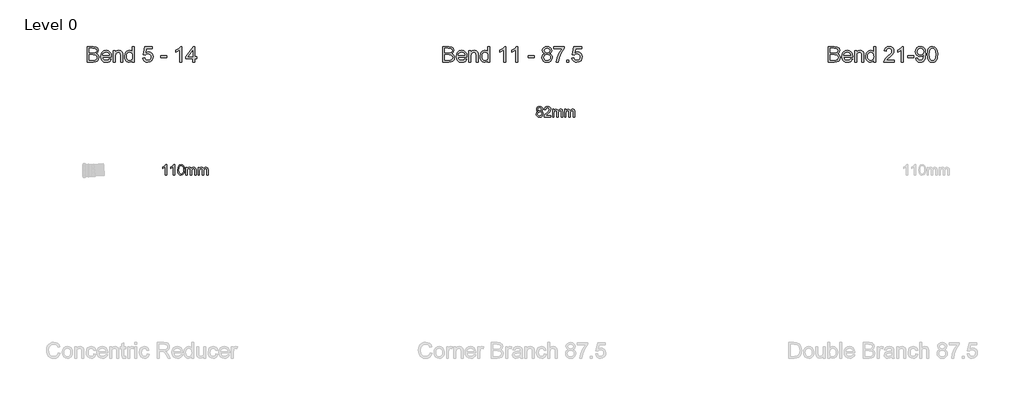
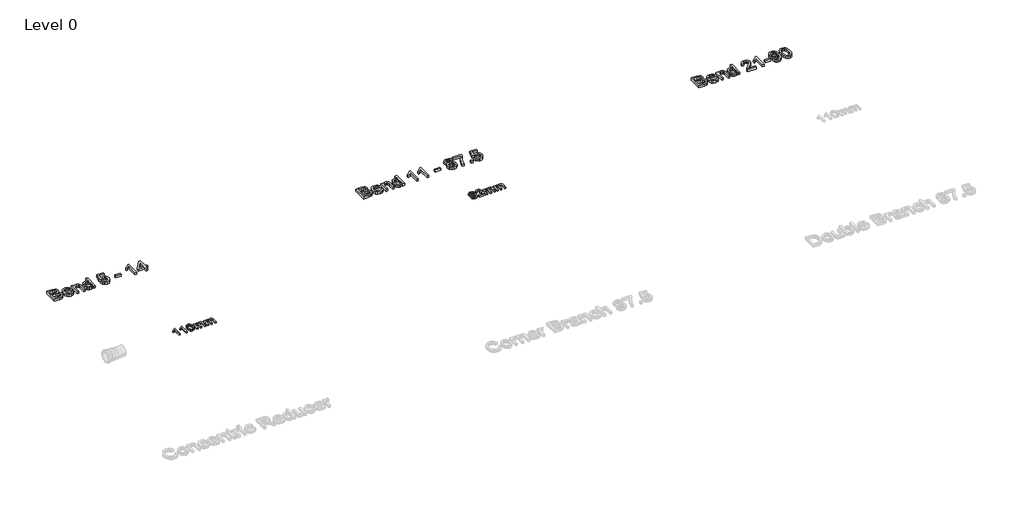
# One storey, part 20 of 23: 5 proxies.
"""IFC4 building model written with IfcOpenShell, lengths in millimetres."""

from ifc_helpers import new_model, si_unit, origin, origin_with_axes, place, context, project, spatial, polyline, outline, extrude, element, save

model = new_model("IFC4")

# Units and contexts
model_context = context("Model", 3, world=origin())
ifc_project = project(units=[si_unit("LENGTHUNIT", "METRE", prefix="MILLI")], contexts=[model_context])

# Site, building, storey
site = spatial("IfcSite", under=ifc_project)
building = spatial("IfcBuilding", under=site)
storey = spatial("IfcBuildingStorey", under=building, Name="Level 0", Elevation=0.0)

# Proxies
placement = place(None, origin())
element("IfcBuildingElementProxy", 1, Name="100mm Arial", ObjectType="100mm Arial", at=placement, inside=storey, context=model_context, shape_type="SweptSolid", body=[
    extrude(outline(polyline([(-6791.7293188, 8237.7167304), (-6804.0370111, 8237.7167304), (-6804.0370111, 8314.4474996), (-6815.6956649, 8306.1422111), (-6828.6523957, 8299.9282688), (-6828.6523957, 8311.5628842), (-6810.6115303, 8323.0773073), (-6799.6620111, 8336.1782688), (-6791.7293188, 8336.1782688), (-6791.7293188, 8237.7167304)])), origin_with_axes(), (0.0, 0.0, 1.0), 15.0),
    extrude(outline(polyline([(-6716.3447034, 8237.7167304), (-6728.6523957, 8237.7167304), (-6728.6523957, 8314.4474996), (-6740.3110495, 8306.1422111), (-6753.2677803, 8299.9282688), (-6753.2677803, 8311.5628842), (-6735.2269149, 8323.0773073), (-6724.2773957, 8336.1782688), (-6716.3447034, 8336.1782688), (-6716.3447034, 8237.7167304)])), origin_with_axes(), (0.0, 0.0, 1.0), 15.0),
    extrude(outline(polyline([(-6687.1139341, 8286.1542304), (-6683.4961457, 8314.4835573), (-6672.7509534, 8330.8176919), (-6654.8062418, 8336.1782688), (-6640.4312418, 8333.0051919), (-6630.5033572, 8323.8585573), (-6624.7341264, 8309.2912496), (-6622.4985495, 8286.1542304), (-6626.0802803, 8257.9450958), (-6636.7894149, 8241.5749035), (-6654.8062418, 8236.1782688), (-6667.5947034, 8238.5220188), (-6677.3062418, 8245.5532688), (-6684.6620111, 8262.2059131), (-6687.1139341, 8286.1542304)]), holes=[polyline([(-6674.8062418, 8286.1782688), (-6673.3639341, 8266.8182929), (-6669.0370111, 8255.613365), (-6662.5947034, 8250.2678121), (-6654.8062418, 8248.4859611), (-6647.0177803, 8250.2738217), (-6640.5754726, 8255.6374035), (-6636.2485495, 8266.848341), (-6634.8062418, 8286.1782688), (-6636.2004726, 8305.1025477), (-6640.3831649, 8316.394615), (-6646.8134534, 8322.0015861), (-6654.9504726, 8323.8705765), (-6662.6547995, 8322.2239419), (-6668.8447034, 8317.2840381), (-6673.3158572, 8305.2888458), (-6674.8062418, 8286.1782688)])]), origin_with_axes(), (0.0, 0.0, 1.0), 15.0),
    extrude(outline(polyline([(-6608.6523957, 8237.7167304), (-6608.6523957, 8310.0244227), (-6596.3447034, 8310.0244227), (-6596.3447034, 8298.1253842), (-6587.8831649, 8307.8729804), (-6575.8398957, 8311.5628842), (-6563.5081649, 8307.800865), (-6556.7293188, 8297.2599996), (-6547.1259534, 8307.9871631), (-6534.9985495, 8311.5628842), (-6525.7467466, 8310.0755044), (-6518.9047995, 8305.613365), (-6514.6770351, 8298.0562736), (-6513.2677803, 8287.2840381), (-6513.2677803, 8237.7167304), (-6525.5754726, 8237.7167304), (-6525.5754726, 8281.9955765), (-6526.7172995, 8292.2720188), (-6530.8519149, 8297.332115), (-6537.8831649, 8299.2551919), (-6549.9865303, 8294.3273073), (-6554.8062418, 8278.5340381), (-6554.8062418, 8237.7167304), (-6567.1139341, 8237.7167304), (-6567.1139341, 8283.3657688), (-6569.9624918, 8295.2888458), (-6579.3014341, 8299.2551919), (-6588.4120111, 8296.6109611), (-6594.4697034, 8288.8705765), (-6596.3447034, 8274.1830765), (-6596.3447034, 8237.7167304), (-6608.6523957, 8237.7167304)])), origin_with_axes(), (0.0, 0.0, 1.0), 15.0),
    extrude(outline(polyline([(-6494.8062418, 8237.7167304), (-6494.8062418, 8310.0244227), (-6482.4985495, 8310.0244227), (-6482.4985495, 8298.1253842), (-6474.0370111, 8307.8729804), (-6461.9937418, 8311.5628842), (-6449.6620111, 8307.800865), (-6442.8831649, 8297.2599996), (-6433.2797995, 8307.9871631), (-6421.1523957, 8311.5628842), (-6411.9005928, 8310.0755044), (-6405.0586457, 8305.613365), (-6400.8308813, 8298.0562736), (-6399.4216264, 8287.2840381), (-6399.4216264, 8237.7167304), (-6411.7293188, 8237.7167304), (-6411.7293188, 8281.9955765), (-6412.8711457, 8292.2720188), (-6417.0057611, 8297.332115), (-6424.0370111, 8299.2551919), (-6436.1403764, 8294.3273073), (-6440.960088, 8278.5340381), (-6440.960088, 8237.7167304), (-6453.2677803, 8237.7167304), (-6453.2677803, 8283.3657688), (-6456.116338, 8295.2888458), (-6465.4552803, 8299.2551919), (-6474.5658572, 8296.6109611), (-6480.6235495, 8288.8705765), (-6482.4985495, 8274.1830765), (-6482.4985495, 8237.7167304), (-6494.8062418, 8237.7167304)])), origin_with_axes(), (0.0, 0.0, 1.0), 15.0),
])
element("IfcBuildingElementProxy", 2, Name="100mm Arial", ObjectType="100mm Arial", at=placement, inside=storey, context=model_context, shape_type="SweptSolid", body=[
    extrude(outline(polyline([(-3282.2581649, 8840.881174), (-3293.4721072, 8848.5254048), (-3297.1139341, 8860.4244433), (-3295.1307611, 8870.0458375), (-3289.1812418, 8877.9965587), (-3279.9324438, 8883.3330971), (-3268.0514341, 8885.1119433), (-3256.0983091, 8883.2910298), (-3246.7293188, 8877.8282894), (-3240.6716264, 8869.7513663), (-3238.6523957, 8860.0879048), (-3242.2461457, 8848.4893471), (-3253.147588, 8840.881174), (-3240.0586457, 8831.2297317), (-3235.5754726, 8815.304251), (-3237.7990303, 8803.537424), (-3244.4697034, 8793.8138663), (-3254.7701841, 8787.287424), (-3267.8831649, 8785.1119433), (-3280.9961457, 8787.2964385), (-3291.2966264, 8793.849924), (-3297.9672995, 8803.6666308), (-3300.1908572, 8815.6407894), (-3295.5273957, 8831.9388663), (-3282.2581649, 8840.881174)]), holes=[polyline([(-3284.8062418, 8860.0638663), (-3280.4432611, 8850.4004048), (-3267.7389341, 8846.6504048), (-3255.2870111, 8850.3763663), (-3250.960088, 8859.5109817), (-3255.4312418, 8868.9701163), (-3267.8831649, 8872.804251), (-3280.3711457, 8869.054251), (-3284.8062418, 8860.0638663)]), polyline([(-3287.8831649, 8816.0734817), (-3285.8278764, 8806.8066548), (-3278.5562418, 8799.8715587), (-3267.7870111, 8797.4196356), (-3253.1235495, 8802.5758856), (-3247.8831649, 8815.6888663), (-3253.2918188, 8829.054251), (-3259.7221072, 8833.0205971), (-3268.1956649, 8834.3427125), (-3282.678838, 8829.1263663), (-3287.8831649, 8816.0734817)])]), origin_with_axes(), (0.0, 0.0, 1.0), 15.0),
    extrude(outline(polyline([(-3161.7293188, 8798.9580971), (-3161.7293188, 8786.6504048), (-3226.3447034, 8786.6504048), (-3225.022588, 8795.1359817), (-3217.5466264, 8808.2008856), (-3202.1379726, 8822.4677125), (-3180.8879726, 8842.9725202), (-3175.5754726, 8856.9148279), (-3180.5874918, 8868.2008856), (-3193.6764341, 8872.804251), (-3207.3182611, 8868.3090587), (-3212.4985495, 8855.881174), (-3224.8062418, 8857.4196356), (-3221.8224678, 8869.3246837), (-3215.3711457, 8878.0205971), (-3205.7888139, 8883.3391067), (-3193.4120111, 8885.1119433), (-3180.9450639, 8883.1407894), (-3171.3807611, 8877.2273279), (-3165.2960255, 8868.3931933), (-3163.2677803, 8857.6600202), (-3165.4552803, 8845.9893471), (-3172.7269149, 8833.9220394), (-3190.3591264, 8817.0590587), (-3204.5177803, 8805.2201163), (-3210.0706649, 8798.9580971), (-3161.7293188, 8798.9580971)])), origin_with_axes(), (0.0, 0.0, 1.0), 15.0),
    extrude(outline(polyline([(-3146.3447034, 8786.6504048), (-3146.3447034, 8858.9580971), (-3134.0370111, 8858.9580971), (-3134.0370111, 8847.0590587), (-3125.5754726, 8856.8066548), (-3113.5322034, 8860.4965587), (-3101.2004726, 8856.7345394), (-3094.4216264, 8846.193674), (-3084.8182611, 8856.9208375), (-3072.6908572, 8860.4965587), (-3063.4390543, 8859.0091788), (-3056.5971072, 8854.5470394), (-3052.3693428, 8846.9899481), (-3050.960088, 8836.2177125), (-3050.960088, 8786.6504048), (-3063.2677803, 8786.6504048), (-3063.2677803, 8830.929251), (-3064.4096072, 8841.2056933), (-3068.5442226, 8846.2657894), (-3075.5754726, 8848.1888663), (-3087.678838, 8843.2609817), (-3092.4985495, 8827.4677125), (-3092.4985495, 8786.6504048), (-3104.8062418, 8786.6504048), (-3104.8062418, 8832.2994433), (-3107.6547995, 8844.2225202), (-3116.9937418, 8848.1888663), (-3126.1043188, 8845.5446356), (-3132.1620111, 8837.804251), (-3134.0370111, 8823.116751), (-3134.0370111, 8786.6504048), (-3146.3447034, 8786.6504048)])), origin_with_axes(), (0.0, 0.0, 1.0), 15.0),
    extrude(outline(polyline([(-3032.4985495, 8786.6504048), (-3032.4985495, 8858.9580971), (-3020.1908572, 8858.9580971), (-3020.1908572, 8847.0590587), (-3011.7293188, 8856.8066548), (-2999.6860495, 8860.4965587), (-2987.3543188, 8856.7345394), (-2980.5754726, 8846.193674), (-2970.9721072, 8856.9208375), (-2958.8447034, 8860.4965587), (-2949.5929005, 8859.0091788), (-2942.7509534, 8854.5470394), (-2938.5231889, 8846.9899481), (-2937.1139341, 8836.2177125), (-2937.1139341, 8786.6504048), (-2949.4216264, 8786.6504048), (-2949.4216264, 8830.929251), (-2950.5634534, 8841.2056933), (-2954.6980688, 8846.2657894), (-2961.7293188, 8848.1888663), (-2973.8326841, 8843.2609817), (-2978.6523957, 8827.4677125), (-2978.6523957, 8786.6504048), (-2990.960088, 8786.6504048), (-2990.960088, 8832.2994433), (-2993.8086457, 8844.2225202), (-3003.147588, 8848.1888663), (-3012.2581649, 8845.5446356), (-3018.3158572, 8837.804251), (-3020.1908572, 8823.116751), (-3020.1908572, 8786.6504048), (-3032.4985495, 8786.6504048)])), origin_with_axes(), (0.0, 0.0, 1.0), 15.0),
])
element("IfcBuildingElementProxy", 3, Name="150mm Arial", ObjectType="150mm Arial", at=placement, inside=storey, context=model_context, shape_type="SweptSolid", body=[
    extrude(outline(polyline([(-7541.3741435, 9305.2145219), (-7541.3741435, 9452.9068296), (-7485.0159704, 9452.9068296), (-7457.413807, 9448.5618777), (-7448.1379656, 9443.049558), (-7441.11573, 9435.2025027), (-7435.2202973, 9416.3082719), (-7440.17823, 9399.0546661), (-7455.1602012, 9385.9837527), (-7444.6989632, 9380.5210123), (-7436.9690954, 9372.2097142), (-7432.1959584, 9361.5997383), (-7430.6049127, 9349.2409642), (-7434.9498647, 9329.3912046), (-7445.7130858, 9315.2565892), (-7461.7767877, 9307.7565892), (-7485.4486627, 9305.2145219), (-7541.3741435, 9305.2145219)]), holes=[polyline([(-7522.912605, 9323.6760604), (-7485.0520281, 9323.6760604), (-7471.350105, 9324.3972142), (-7459.757557, 9328.4176469), (-7452.0772685, 9336.6207719), (-7449.0664512, 9349.0606758), (-7452.600105, 9363.4116373), (-7464.0484223, 9371.9753392), (-7486.8549127, 9374.4452911), (-7522.912605, 9374.4452911), (-7522.912605, 9323.6760604)]), polyline([(-7522.912605, 9392.9068296), (-7489.1986627, 9392.9068296), (-7469.5111627, 9394.4933681), (-7457.6662108, 9401.3263008), (-7453.6818358, 9413.3515411), (-7457.3957781, 9425.3948104), (-7468.0327973, 9432.5162046), (-7491.7587589, 9434.4452911), (-7522.912605, 9434.4452911), (-7522.912605, 9392.9068296)])]), origin_with_axes(), (0.0, 0.0, 1.0), 25.0),
    extrude(outline(polyline([(-7331.5904897, 9337.5222142), (-7313.4895281, 9335.2145219), (-7320.0114632, 9321.5756998), (-7330.4186147, 9311.3803873), (-7344.4766074, 9305.025219), (-7361.9510666, 9302.9068296), (-7383.6127252, 9306.5621782), (-7400.2803935, 9317.5282238), (-7410.9083983, 9335.0928272), (-7414.4510666, 9358.5438488), (-7410.8723406, 9382.7836325), (-7400.1361627, 9400.9116373), (-7383.693855, 9412.2157238), (-7362.9967397, 9415.9837527), (-7342.9441555, 9412.2247383), (-7326.9210185, 9400.947695), (-7316.4147084, 9382.8557479), (-7312.912605, 9358.6520219), (-7313.0207781, 9353.6760604), (-7395.9895281, 9353.6760604), (-7392.7939151, 9339.8569498), (-7385.3705377, 9329.697695), (-7374.6568959, 9323.4506998), (-7361.5904897, 9321.3683681), (-7343.4895281, 9325.2265411), (-7331.5904897, 9337.5222142)]), holes=[polyline([(-7395.9895281, 9372.1375988), (-7331.3741435, 9372.1375988), (-7333.8711387, 9381.8912046), (-7338.7659704, 9388.8683681), (-7349.5291916, 9395.3587527), (-7363.068855, 9397.5222142), (-7375.5132661, 9395.7959522), (-7385.80323, 9390.6171661), (-7392.9561747, 9382.5447503), (-7395.9895281, 9372.1375988)])]), origin_with_axes(), (0.0, 0.0, 1.0), 25.0),
    extrude(outline(polyline([(-7294.4510666, 9305.2145219), (-7294.4510666, 9413.6760604), (-7275.9895281, 9413.6760604), (-7275.9895281, 9398.5318296), (-7261.8729416, 9411.6207719), (-7242.600105, 9415.9837527), (-7225.1662108, 9412.4681277), (-7213.2671723, 9403.2373585), (-7207.7323166, 9389.6616373), (-7206.7587589, 9371.8130796), (-7206.7587589, 9305.2145219), (-7225.2202973, 9305.2145219), (-7225.2202973, 9369.3250988), (-7227.3477012, 9385.6592335), (-7234.86573, 9394.2950508), (-7247.5400089, 9397.5222142), (-7258.3528094, 9395.7103152), (-7267.570057, 9390.2746181), (-7273.8846603, 9379.7728152), (-7275.9895281, 9362.7625988), (-7275.9895281, 9305.2145219), (-7294.4510666, 9305.2145219)])), origin_with_axes(), (0.0, 0.0, 1.0), 25.0),
    extrude(outline(polyline([(-7114.4510666, 9305.2145219), (-7114.4510666, 9322.6303873), (-7126.6656098, 9307.837719), (-7143.5496243, 9302.9068296), (-7155.4847204, 9304.6916854), (-7166.4102012, 9310.0462527), (-7175.6589993, 9318.596433), (-7182.5640473, 9329.9681277), (-7186.8639272, 9343.7016012), (-7188.2972204, 9359.3371181), (-7183.0147685, 9388.7241373), (-7176.4162108, 9400.3797863), (-7167.1854416, 9408.9525027), (-7156.0210786, 9414.2259402), (-7143.6217397, 9415.9837527), (-7126.6025089, 9410.9537046), (-7114.4510666, 9397.8827911), (-7114.4510666, 9452.9068296), (-7095.9895281, 9452.9068296), (-7095.9895281, 9305.2145219), (-7114.4510666, 9305.2145219)]), holes=[polyline([(-7169.835682, 9359.4092335), (-7167.7533502, 9342.7100147), (-7161.506355, 9330.8335123), (-7152.428831, 9323.7346541), (-7141.8549127, 9321.3683681), (-7131.2855017, 9323.6264811), (-7122.4378454, 9330.40082), (-7116.4477613, 9341.8175868), (-7114.4510666, 9358.0029835), (-7116.483819, 9375.698296), (-7122.5820762, 9387.9669258), (-7131.655093, 9395.1333921), (-7142.6121243, 9397.5222142), (-7153.2942156, 9395.2280436), (-7162.0472204, 9388.3455315), (-7167.8885666, 9376.5231157), (-7169.835682, 9359.4092335)])]), origin_with_axes(), (0.0, 0.0, 1.0), 25.0),
    extrude(outline(polyline([(-7015.2202973, 9344.4452911), (-6996.7587589, 9346.7529835), (-6993.3693358, 9335.6697503), (-6987.4558743, 9327.7325508), (-6979.0454175, 9322.9594137), (-6968.1650089, 9321.3683681), (-6954.9318358, 9323.5814089), (-6945.0159704, 9330.2205315), (-6938.8230618, 9340.5195099), (-6936.7587589, 9353.7121181), (-6938.6923526, 9366.1339931), (-6944.4931339, 9375.635195), (-6954.2061747, 9381.665844), (-6967.8765473, 9383.6760604), (-6984.08448, 9380.4669258), (-6994.4510666, 9372.1375988), (-7012.912605, 9374.4452911), (-6996.7587589, 9450.5991373), (-6925.2202973, 9450.5991373), (-6925.2202973, 9432.1375988), (-6981.8308743, 9432.1375988), (-6989.7275089, 9391.4645219), (-6976.5394079, 9399.4693296), (-6962.7202973, 9402.1375988), (-6945.4711988, 9398.8293056), (-6931.1517877, 9388.9044258), (-6921.5108622, 9373.7782238), (-6918.2972204, 9354.8659642), (-6921.1908502, 9336.4044258), (-6929.8717397, 9320.6111565), (-6946.4943358, 9307.3329113), (-6968.2371243, 9302.9068296), (-6986.3696363, 9305.7508801), (-7000.8152493, 9314.2830315), (-7010.717593, 9327.5116974), (-7015.2202973, 9344.4452911)])), origin_with_axes(), (0.0, 0.0, 1.0), 25.0),
    extrude(outline(polyline([(-6849.0664512, 9349.0606758), (-6849.0664512, 9367.5222142), (-6791.3741435, 9367.5222142), (-6791.3741435, 9349.0606758), (-6849.0664512, 9349.0606758)])), origin_with_axes(), (0.0, 0.0, 1.0), 25.0),
    extrude(outline(polyline([(-6648.2972204, 9305.2145219), (-6666.7587589, 9305.2145219), (-6666.7587589, 9420.3106758), (-6684.2467397, 9407.8527431), (-6703.6818358, 9398.5318296), (-6703.6818358, 9415.9837527), (-6676.6205377, 9433.2553873), (-6660.1962589, 9452.9068296), (-6648.2972204, 9452.9068296), (-6648.2972204, 9305.2145219)])), origin_with_axes(), (0.0, 0.0, 1.0), 25.0),
    extrude(outline(polyline([(-6544.4510666, 9305.2145219), (-6544.4510666, 9339.8299065), (-6611.3741435, 9339.8299065), (-6611.3741435, 9358.291445), (-6539.835682, 9450.5991373), (-6525.9895281, 9450.5991373), (-6525.9895281, 9358.291445), (-6507.5279897, 9358.291445), (-6507.5279897, 9339.8299065), (-6525.9895281, 9339.8299065), (-6525.9895281, 9305.2145219), (-6544.4510666, 9305.2145219)]), holes=[polyline([(-6544.4510666, 9358.291445), (-6544.4510666, 9415.3347142), (-6588.6577973, 9358.291445), (-6544.4510666, 9358.291445)])]), origin_with_axes(), (0.0, 0.0, 1.0), 25.0),
])
element("IfcBuildingElementProxy", 4, Name="150mm Arial", ObjectType="150mm Arial", at=placement, inside=storey, context=model_context, shape_type="SweptSolid", body=[
    extrude(outline(polyline([(-4183.2972204, 9305.2145219), (-4183.2972204, 9452.9068296), (-4126.9390473, 9452.9068296), (-4099.3368839, 9448.5618777), (-4090.0610425, 9443.049558), (-4083.038807, 9435.2025027), (-4077.1433743, 9416.3082719), (-4082.101307, 9399.0546661), (-4097.0832781, 9385.9837527), (-4086.6220401, 9380.5210123), (-4078.8921723, 9372.2097142), (-4074.1190353, 9361.5997383), (-4072.5279897, 9349.2409642), (-4076.8729416, 9329.3912046), (-4087.6361627, 9315.2565892), (-4103.6998647, 9307.7565892), (-4127.3717397, 9305.2145219), (-4183.2972204, 9305.2145219)]), holes=[polyline([(-4164.835682, 9323.6760604), (-4126.975105, 9323.6760604), (-4113.273182, 9324.3972142), (-4101.6806339, 9328.4176469), (-4094.0003454, 9336.6207719), (-4090.9895281, 9349.0606758), (-4094.523182, 9363.4116373), (-4105.9714993, 9371.9753392), (-4128.7779897, 9374.4452911), (-4164.835682, 9374.4452911), (-4164.835682, 9323.6760604)]), polyline([(-4164.835682, 9392.9068296), (-4131.1217397, 9392.9068296), (-4111.4342397, 9394.4933681), (-4099.5892877, 9401.3263008), (-4095.6049127, 9413.3515411), (-4099.318855, 9425.3948104), (-4109.9558743, 9432.5162046), (-4133.6818358, 9434.4452911), (-4164.835682, 9434.4452911), (-4164.835682, 9392.9068296)])]), origin_with_axes(), (0.0, 0.0, 1.0), 25.0),
    extrude(outline(polyline([(-3973.5135666, 9337.5222142), (-3955.412605, 9335.2145219), (-3961.9345401, 9321.5756998), (-3972.3416916, 9311.3803873), (-3986.3996844, 9305.025219), (-4003.8741435, 9302.9068296), (-4025.5358022, 9306.5621782), (-4042.2034704, 9317.5282238), (-4052.8314752, 9335.0928272), (-4056.3741435, 9358.5438488), (-4052.7954175, 9382.7836325), (-4042.0592397, 9400.9116373), (-4025.616932, 9412.2157238), (-4004.9198166, 9415.9837527), (-3984.8672324, 9412.2247383), (-3968.8440954, 9400.947695), (-3958.3377853, 9382.8557479), (-3954.835682, 9358.6520219), (-3954.943855, 9353.6760604), (-4037.912605, 9353.6760604), (-4034.7169921, 9339.8569498), (-4027.2936147, 9329.697695), (-4016.5799728, 9323.4506998), (-4003.5135666, 9321.3683681), (-3985.412605, 9325.2265411), (-3973.5135666, 9337.5222142)]), holes=[polyline([(-4037.912605, 9372.1375988), (-3973.2972204, 9372.1375988), (-3975.7942156, 9381.8912046), (-3980.6890473, 9388.8683681), (-3991.4522685, 9395.3587527), (-4004.991932, 9397.5222142), (-4017.436343, 9395.7959522), (-4027.726307, 9390.6171661), (-4034.8792517, 9382.5447503), (-4037.912605, 9372.1375988)])]), origin_with_axes(), (0.0, 0.0, 1.0), 25.0),
    extrude(outline(polyline([(-3936.3741435, 9305.2145219), (-3936.3741435, 9413.6760604), (-3917.912605, 9413.6760604), (-3917.912605, 9398.5318296), (-3903.7960185, 9411.6207719), (-3884.523182, 9415.9837527), (-3867.0892877, 9412.4681277), (-3855.1902493, 9403.2373585), (-3849.6553935, 9389.6616373), (-3848.6818358, 9371.8130796), (-3848.6818358, 9305.2145219), (-3867.1433743, 9305.2145219), (-3867.1433743, 9369.3250988), (-3869.2707781, 9385.6592335), (-3876.788807, 9394.2950508), (-3889.4630858, 9397.5222142), (-3900.2758863, 9395.7103152), (-3909.4931339, 9390.2746181), (-3915.8077372, 9379.7728152), (-3917.912605, 9362.7625988), (-3917.912605, 9305.2145219), (-3936.3741435, 9305.2145219)])), origin_with_axes(), (0.0, 0.0, 1.0), 25.0),
    extrude(outline(polyline([(-3756.3741435, 9305.2145219), (-3756.3741435, 9322.6303873), (-3768.5886868, 9307.837719), (-3785.4727012, 9302.9068296), (-3797.4077973, 9304.6916854), (-3808.3332781, 9310.0462527), (-3817.5820762, 9318.596433), (-3824.4871243, 9329.9681277), (-3828.7870041, 9343.7016012), (-3830.2202973, 9359.3371181), (-3824.9378454, 9388.7241373), (-3818.3392877, 9400.3797863), (-3809.1085185, 9408.9525027), (-3797.9441555, 9414.2259402), (-3785.5448166, 9415.9837527), (-3768.5255858, 9410.9537046), (-3756.3741435, 9397.8827911), (-3756.3741435, 9452.9068296), (-3737.912605, 9452.9068296), (-3737.912605, 9305.2145219), (-3756.3741435, 9305.2145219)]), holes=[polyline([(-3811.7587589, 9359.4092335), (-3809.6764272, 9342.7100147), (-3803.429432, 9330.8335123), (-3794.3519079, 9323.7346541), (-3783.7779897, 9321.3683681), (-3773.2085786, 9323.6264811), (-3764.3609223, 9330.40082), (-3758.3708382, 9341.8175868), (-3756.3741435, 9358.0029835), (-3758.4068959, 9375.698296), (-3764.5051531, 9387.9669258), (-3773.5781699, 9395.1333921), (-3784.5352012, 9397.5222142), (-3795.2172925, 9395.2280436), (-3803.9702973, 9388.3455315), (-3809.8116435, 9376.5231157), (-3811.7587589, 9359.4092335)])]), origin_with_axes(), (0.0, 0.0, 1.0), 25.0),
    extrude(outline(polyline([(-3587.912605, 9305.2145219), (-3606.3741435, 9305.2145219), (-3606.3741435, 9420.3106758), (-3623.8621243, 9407.8527431), (-3643.2972204, 9398.5318296), (-3643.2972204, 9415.9837527), (-3616.2359223, 9433.2553873), (-3599.8116435, 9452.9068296), (-3587.912605, 9452.9068296), (-3587.912605, 9305.2145219)])), origin_with_axes(), (0.0, 0.0, 1.0), 25.0),
    extrude(outline(polyline([(-3474.835682, 9305.2145219), (-3493.2972204, 9305.2145219), (-3493.2972204, 9420.3106758), (-3510.7852012, 9407.8527431), (-3530.2202973, 9398.5318296), (-3530.2202973, 9415.9837527), (-3503.1589993, 9433.2553873), (-3486.7347204, 9452.9068296), (-3474.835682, 9452.9068296), (-3474.835682, 9305.2145219)])), origin_with_axes(), (0.0, 0.0, 1.0), 25.0),
    extrude(outline(polyline([(-3377.912605, 9349.0606758), (-3377.912605, 9367.5222142), (-3320.2202973, 9367.5222142), (-3320.2202973, 9349.0606758), (-3377.912605, 9349.0606758)])), origin_with_axes(), (0.0, 0.0, 1.0), 25.0),
    extrude(outline(polyline([(-3219.475105, 9386.5606758), (-3236.2960185, 9398.0270219), (-3241.7587589, 9415.8755796), (-3238.7839993, 9430.307671), (-3229.8597204, 9442.2337527), (-3215.9865233, 9450.2385604), (-3198.1650089, 9452.9068296), (-3180.2353214, 9450.1754594), (-3166.1818358, 9441.9813488), (-3157.0952973, 9429.8659642), (-3154.0664512, 9415.3707719), (-3159.4570762, 9397.9729354), (-3175.8092397, 9386.5606758), (-3164.4465594, 9380.705808), (-3156.1758262, 9372.0835123), (-3151.1322565, 9361.1084522), (-3149.4510666, 9348.1952911), (-3152.7864031, 9330.5450508), (-3162.7924127, 9315.9597142), (-3178.2431339, 9306.1700508), (-3197.912605, 9302.9068296), (-3217.5820762, 9306.1835724), (-3233.0327973, 9316.0138008), (-3243.038807, 9330.7388609), (-3246.3741435, 9348.7000988), (-3244.6253454, 9362.1135604), (-3239.3789512, 9373.1472142), (-3230.9053935, 9381.4224546), (-3219.475105, 9386.5606758)]), holes=[polyline([(-3227.912605, 9349.3491373), (-3224.8296723, 9335.4488969), (-3213.9222204, 9325.0462527), (-3197.7683743, 9321.3683681), (-3185.2022685, 9323.3019618), (-3175.773182, 9329.1027431), (-3169.8777493, 9337.8872984), (-3167.912605, 9348.7722142), (-3169.9408502, 9359.8419258), (-3176.0255858, 9368.8202911), (-3185.6710185, 9374.7698104), (-3198.381355, 9376.7529835), (-3210.7716796, 9374.7968536), (-3220.1061147, 9368.9284642), (-3225.9609824, 9360.1213729), (-3227.912605, 9349.3491373)]), polyline([(-3223.2972204, 9415.3347142), (-3221.6611026, 9407.27582), (-3216.7527493, 9400.8395219), (-3208.7163911, 9396.6207719), (-3197.6962589, 9395.2145219), (-3186.9330377, 9396.6117575), (-3179.0183743, 9400.8034642), (-3174.1505858, 9407.0234161), (-3172.5279897, 9414.5053873), (-3174.2046723, 9422.2713128), (-3179.2347204, 9428.6940892), (-3187.257557, 9433.0074907), (-3197.912605, 9434.4452911), (-3208.6352613, 9433.0390411), (-3216.6445762, 9428.8202911), (-3221.6340594, 9422.6363969), (-3223.2972204, 9415.3347142)])]), origin_with_axes(), (0.0, 0.0, 1.0), 25.0),
    extrude(outline(polyline([(-3133.2972204, 9432.1375988), (-3133.2972204, 9450.5991373), (-3036.3741435, 9450.5991373), (-3036.3741435, 9435.6712527), (-3063.8681339, 9395.9537046), (-3084.9077973, 9345.3467335), (-3091.7587589, 9305.2145219), (-3110.2202973, 9305.2145219), (-3102.882557, 9346.8611565), (-3082.7443358, 9393.9344738), (-3054.835682, 9432.1375988), (-3133.2972204, 9432.1375988)])), origin_with_axes(), (0.0, 0.0, 1.0), 25.0),
    extrude(outline(polyline([(-3010.9895281, 9305.2145219), (-3010.9895281, 9323.6760604), (-2992.5279897, 9323.6760604), (-2992.5279897, 9305.2145219), (-3010.9895281, 9305.2145219)])), origin_with_axes(), (0.0, 0.0, 1.0), 25.0),
    extrude(outline(polyline([(-2962.5279897, 9344.4452911), (-2944.0664512, 9346.7529835), (-2940.6770281, 9335.6697503), (-2934.7635666, 9327.7325508), (-2926.3531098, 9322.9594137), (-2915.4727012, 9321.3683681), (-2902.2395281, 9323.5814089), (-2892.3236627, 9330.2205315), (-2886.1307541, 9340.5195099), (-2884.0664512, 9353.7121181), (-2886.0000449, 9366.1339931), (-2891.8008262, 9375.635195), (-2901.5138671, 9381.665844), (-2915.1842397, 9383.6760604), (-2931.3921723, 9380.4669258), (-2941.7587589, 9372.1375988), (-2960.2202973, 9374.4452911), (-2944.0664512, 9450.5991373), (-2872.5279897, 9450.5991373), (-2872.5279897, 9432.1375988), (-2929.1385666, 9432.1375988), (-2937.0352012, 9391.4645219), (-2923.8471002, 9399.4693296), (-2910.0279897, 9402.1375988), (-2892.7788911, 9398.8293056), (-2878.45948, 9388.9044258), (-2868.8185546, 9373.7782238), (-2865.6049127, 9354.8659642), (-2868.4985425, 9336.4044258), (-2877.179432, 9320.6111565), (-2893.8020281, 9307.3329113), (-2915.5448166, 9302.9068296), (-2933.6773286, 9305.7508801), (-2948.1229416, 9314.2830315), (-2958.0252853, 9327.5116974), (-2962.5279897, 9344.4452911)])), origin_with_axes(), (0.0, 0.0, 1.0), 25.0),
])
element("IfcBuildingElementProxy", 5, Name="150mm Arial", ObjectType="150mm Arial", at=placement, inside=storey, context=model_context, shape_type="SweptSolid", body=[
    extrude(outline(polyline([(-540.2202973, 9305.2145219), (-540.2202973, 9452.9068296), (-483.8621243, 9452.9068296), (-456.2599608, 9448.5618777), (-446.9841195, 9443.049558), (-439.9618839, 9435.2025027), (-434.0664512, 9416.3082719), (-439.0243839, 9399.0546661), (-454.006355, 9385.9837527), (-443.5451171, 9380.5210123), (-435.8152493, 9372.2097142), (-431.0421122, 9361.5997383), (-429.4510666, 9349.2409642), (-433.7960185, 9329.3912046), (-444.5592397, 9315.2565892), (-460.6229416, 9307.7565892), (-484.2948166, 9305.2145219), (-540.2202973, 9305.2145219)]), holes=[polyline([(-521.7587589, 9323.6760604), (-483.898182, 9323.6760604), (-470.1962589, 9324.3972142), (-458.6037108, 9328.4176469), (-450.9234223, 9336.6207719), (-447.912605, 9349.0606758), (-451.4462589, 9363.4116373), (-462.8945762, 9371.9753392), (-485.7010666, 9374.4452911), (-521.7587589, 9374.4452911), (-521.7587589, 9323.6760604)]), polyline([(-521.7587589, 9392.9068296), (-488.0448166, 9392.9068296), (-468.3573166, 9394.4933681), (-456.5123647, 9401.3263008), (-452.5279897, 9413.3515411), (-456.241932, 9425.3948104), (-466.8789512, 9432.5162046), (-490.6049127, 9434.4452911), (-521.7587589, 9434.4452911), (-521.7587589, 9392.9068296)])]), origin_with_axes(), (0.0, 0.0, 1.0), 25.0),
    extrude(outline(polyline([(-330.4366435, 9337.5222142), (-312.335682, 9335.2145219), (-318.8576171, 9321.5756998), (-329.2647685, 9311.3803873), (-343.3227613, 9305.025219), (-360.7972204, 9302.9068296), (-382.4588791, 9306.5621782), (-399.1265473, 9317.5282238), (-409.7545522, 9335.0928272), (-413.2972204, 9358.5438488), (-409.7184945, 9382.7836325), (-398.9823166, 9400.9116373), (-382.5400089, 9412.2157238), (-361.8428935, 9415.9837527), (-341.7903094, 9412.2247383), (-325.7671723, 9400.947695), (-315.2608622, 9382.8557479), (-311.7587589, 9358.6520219), (-311.866932, 9353.6760604), (-394.835682, 9353.6760604), (-391.640069, 9339.8569498), (-384.2166916, 9329.697695), (-373.5030497, 9323.4506998), (-360.4366435, 9321.3683681), (-342.335682, 9325.2265411), (-330.4366435, 9337.5222142)]), holes=[polyline([(-394.835682, 9372.1375988), (-330.2202973, 9372.1375988), (-332.7172925, 9381.8912046), (-337.6121243, 9388.8683681), (-348.3753454, 9395.3587527), (-361.9150089, 9397.5222142), (-374.3594199, 9395.7959522), (-384.6493839, 9390.6171661), (-391.8023286, 9382.5447503), (-394.835682, 9372.1375988)])]), origin_with_axes(), (0.0, 0.0, 1.0), 25.0),
    extrude(outline(polyline([(-293.2972204, 9305.2145219), (-293.2972204, 9413.6760604), (-274.835682, 9413.6760604), (-274.835682, 9398.5318296), (-260.7190954, 9411.6207719), (-241.4462589, 9415.9837527), (-224.0123647, 9412.4681277), (-212.1133262, 9403.2373585), (-206.5784704, 9389.6616373), (-205.6049127, 9371.8130796), (-205.6049127, 9305.2145219), (-224.0664512, 9305.2145219), (-224.0664512, 9369.3250988), (-226.193855, 9385.6592335), (-233.7118839, 9394.2950508), (-246.3861627, 9397.5222142), (-257.1989632, 9395.7103152), (-266.4162108, 9390.2746181), (-272.7308142, 9379.7728152), (-274.835682, 9362.7625988), (-274.835682, 9305.2145219), (-293.2972204, 9305.2145219)])), origin_with_axes(), (0.0, 0.0, 1.0), 25.0),
    extrude(outline(polyline([(-113.2972204, 9305.2145219), (-113.2972204, 9322.6303873), (-125.5117637, 9307.837719), (-142.3957781, 9302.9068296), (-154.3308743, 9304.6916854), (-165.256355, 9310.0462527), (-174.5051531, 9318.596433), (-181.4102012, 9329.9681277), (-185.710081, 9343.7016012), (-187.1433743, 9359.3371181), (-181.8609223, 9388.7241373), (-175.2623647, 9400.3797863), (-166.0315954, 9408.9525027), (-154.8672324, 9414.2259402), (-142.4678935, 9415.9837527), (-125.4486627, 9410.9537046), (-113.2972204, 9397.8827911), (-113.2972204, 9452.9068296), (-94.835682, 9452.9068296), (-94.835682, 9305.2145219), (-113.2972204, 9305.2145219)]), holes=[polyline([(-168.6818358, 9359.4092335), (-166.5995041, 9342.7100147), (-160.3525089, 9330.8335123), (-151.2749848, 9323.7346541), (-140.7010666, 9321.3683681), (-130.1316555, 9323.6264811), (-121.2839993, 9330.40082), (-115.2939151, 9341.8175868), (-113.2972204, 9358.0029835), (-115.3299728, 9375.698296), (-121.42823, 9387.9669258), (-130.5012469, 9395.1333921), (-141.4582781, 9397.5222142), (-152.1403695, 9395.2280436), (-160.8933743, 9388.3455315), (-166.7347204, 9376.5231157), (-168.6818358, 9359.4092335)])]), origin_with_axes(), (0.0, 0.0, 1.0), 25.0),
    extrude(outline(polyline([(80.5489334, 9323.6760604), (80.5489334, 9305.2145219), (-16.3741435, 9305.2145219), (-14.3909704, 9317.9428873), (-3.1770281, 9337.5402431), (19.9359527, 9358.9404835), (51.8109527, 9389.697695), (57.7875152, 9400.2986565), (59.7797027, 9410.6111565), (57.9001954, 9419.8554474), (52.2616738, 9427.5402431), (43.594306, 9432.7190291), (32.6282603, 9434.4452911), (21.1123349, 9432.759594), (12.16552, 9427.7025027), (6.391782, 9419.6706517), (4.3950873, 9409.0606758), (-14.0664512, 9411.3683681), (-9.5907901, 9429.2259402), (0.086193, 9442.2698104), (14.4596906, 9450.2475748), (33.024895, 9452.9068296), (51.7253156, 9449.9500988), (66.07177, 9441.0799065), (75.1988733, 9427.8287046), (78.2412411, 9411.728945), (74.9599911, 9394.2229354), (64.0525392, 9376.1219738), (37.6042219, 9350.8275027), (16.3662411, 9333.0690892), (8.0369142, 9323.6760604), (80.5489334, 9323.6760604)])), origin_with_axes(), (0.0, 0.0, 1.0), 25.0),
    extrude(outline(polyline([(168.2412411, 9305.2145219), (149.7797027, 9305.2145219), (149.7797027, 9420.3106758), (132.2917219, 9407.8527431), (112.8566257, 9398.5318296), (112.8566257, 9415.9837527), (139.9179238, 9433.2553873), (156.3422027, 9452.9068296), (168.2412411, 9452.9068296), (168.2412411, 9305.2145219)])), origin_with_axes(), (0.0, 0.0, 1.0), 25.0),
    extrude(outline(polyline([(207.4720103, 9349.0606758), (207.4720103, 9367.5222142), (265.164318, 9367.5222142), (265.164318, 9349.0606758), (207.4720103, 9349.0606758)])), origin_with_axes(), (0.0, 0.0, 1.0), 25.0),
    extrude(outline(polyline([(283.6258565, 9342.1375988), (302.087395, 9344.4452911), (305.242443, 9333.9660243), (310.3806642, 9326.8311085), (326.101818, 9321.3683681), (341.0477315, 9324.8839931), (351.179943, 9334.2770219), (357.2196065, 9350.322695), (359.8878757, 9371.7409642), (359.7797027, 9375.3467335), (345.0140777, 9361.3563488), (324.7676834, 9355.9837527), (307.9332483, 9359.2650027), (293.9203277, 9369.1087527), (284.4687051, 9384.3160844), (281.3181642, 9403.6880796), (284.6219503, 9423.7000988), (294.5333084, 9439.385195), (309.4206281, 9449.526421), (327.6522988, 9452.9068296), (341.4218301, 9450.9777431), (353.9563853, 9445.1904835), (364.4401594, 9435.8335123), (372.0573469, 9423.1952911), (376.6952676, 9405.7253392), (378.2412411, 9381.8731758), (376.6997748, 9356.5832118), (372.0753757, 9337.0354354), (364.4086089, 9322.346433), (353.7400392, 9311.6327911), (340.5294022, 9305.08832), (325.2364334, 9302.9068296), (309.4521786, 9305.4804474), (296.8590296, 9313.2013008), (288.0519382, 9325.5826109), (283.6258565, 9342.1375988)]), holes=[polyline([(359.7797027, 9404.1207719), (357.7875152, 9416.6327911), (351.8109527, 9426.260195), (342.5351113, 9432.3990171), (330.6450873, 9434.4452911), (318.3133565, 9432.2412647), (308.4335488, 9425.6291854), (301.9431642, 9415.5104955), (299.7797027, 9402.7866373), (301.8259767, 9391.3788849), (307.9647988, 9382.3238969), (317.6012171, 9376.4149426), (330.1402796, 9374.4452911), (341.9356522, 9376.4149426), (351.4323469, 9382.3238969), (357.6928637, 9391.7124186), (359.7797027, 9404.1207719)])]), origin_with_axes(), (0.0, 0.0, 1.0), 25.0),
    extrude(outline(polyline([(394.3950873, 9377.8707719), (395.7517579, 9401.5110964), (399.82177, 9420.3647623), (406.5645584, 9434.7202311), (415.9395584, 9444.8659642), (428.0143781, 9450.8966133), (442.8566257, 9452.9068296), (464.4191257, 9448.1472142), (479.3109527, 9434.4272623), (487.9647988, 9412.5763008), (491.3181642, 9377.8707719), (489.9750152, 9354.3656637), (485.945568, 9335.55707), (479.2433445, 9321.1880796), (469.8818661, 9311.0017815), (457.7800031, 9304.9305676), (442.8566257, 9302.9068296), (423.6739334, 9306.4224546), (409.1066257, 9316.9693296), (398.0729719, 9341.948296), (394.3950873, 9377.8707719)]), holes=[polyline([(412.8566257, 9377.9068296), (415.0200873, 9348.8668657), (421.5104719, 9332.0594738), (431.1739334, 9324.0411445), (442.8566257, 9321.3683681), (454.539318, 9324.0501589), (464.2027796, 9332.0955315), (470.6931642, 9348.9119378), (472.8566257, 9377.9068296), (470.7652796, 9406.2932479), (464.4912411, 9423.2313488), (454.8458084, 9431.6418056), (442.6402796, 9434.4452911), (431.0837892, 9431.9753392), (421.7989334, 9424.5654835), (415.0922027, 9406.572695), (412.8566257, 9377.9068296)])]), origin_with_axes(), (0.0, 0.0, 1.0), 25.0),
])

save(model, "model.ifc")
